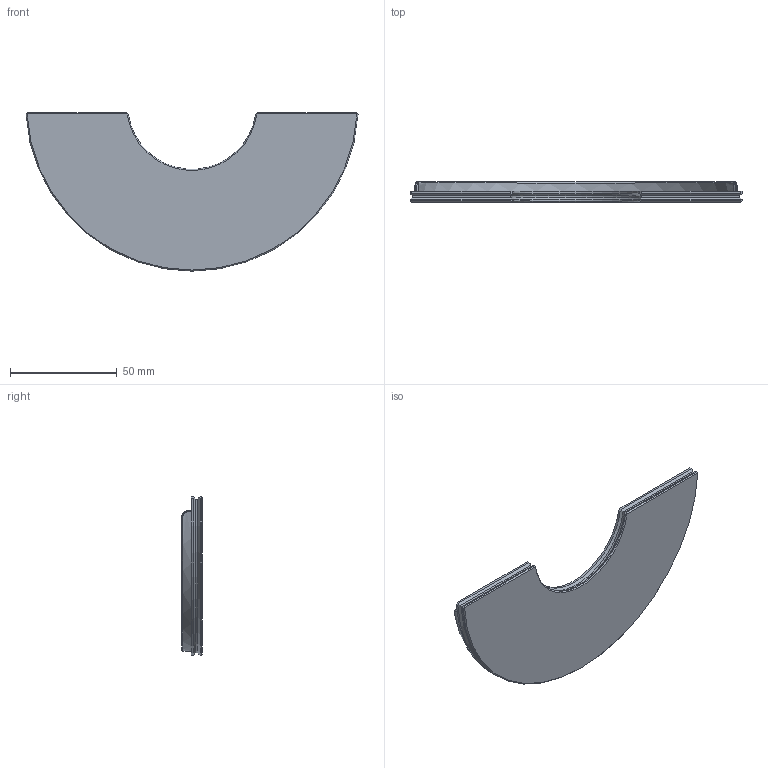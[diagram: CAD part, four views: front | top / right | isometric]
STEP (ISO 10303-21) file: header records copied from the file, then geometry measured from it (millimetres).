
FILE_DESCRIPTION(/* description */ (''),/* implementation_level */ '2;1');
FILE_NAME(/* name */ 'PokemonDrawers v2-drawer2b.step',/* time_stamp */ '2024-06-10T21:34:52+02:00',/* author */ (''),/* organization */ (''),/* preprocessor_version */ 'ST-DEVELOPER v20',/* originating_system */ 'Autodesk Translation Framework v13.14.0.145',/* authorisation */ '');
FILE_SCHEMA (('AUTOMOTIVE_DESIGN { 1 0 10303 214 3 1 1 }'));
Length unit declared in the file: millimetre
Products named in the file (2): PokemonDrawers; Component5
Assembly tree (1 placements, depth 2):
  PokemonDrawers
    Component5
Bounding box: 155.24 x 9.5 x 74 mm (x, y, z)
Volume: 39074.8 mm3; surface area: 19540.1 mm2
Topology: 1 solids, 1 shells, 55 faces, 140 edges, 88 vertices
Faces by surface type: plane 29, cylinder 10, bspline 8, cone 8
Entity records: 1854 total; most frequent: CARTESIAN_POINT 578, ORIENTED_EDGE 280, DIRECTION 220, EDGE_CURVE 140, VERTEX_POINT 88, LINE 80, VECTOR 80, AXIS2_PLACEMENT_3D 70
